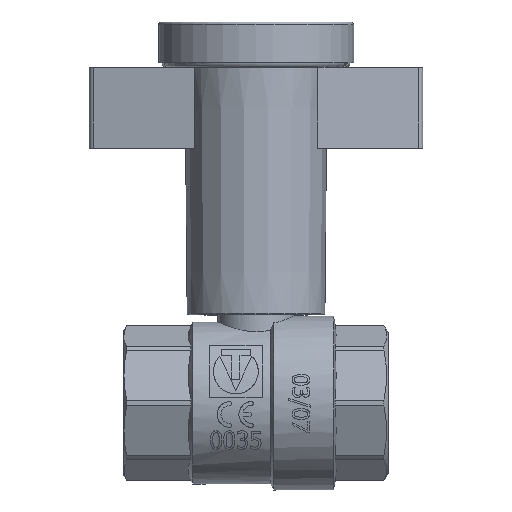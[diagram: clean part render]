
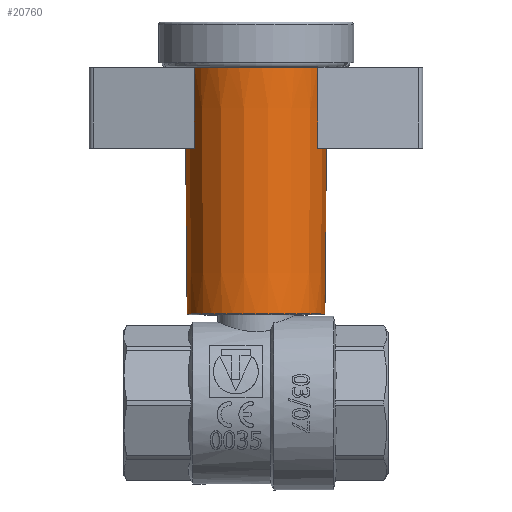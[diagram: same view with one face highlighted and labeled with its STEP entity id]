
A CAD part, top view. The second image highlights one B-rep face of the part: STEP entity #20760.
In plain terms, the highlighted conical face has half-angle 0.511 degrees and reference radius 14.7 mm.
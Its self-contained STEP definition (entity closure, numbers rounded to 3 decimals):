
#476=CONICAL_SURFACE('',#22009,14.7,0.009);
#1263=LINE('',#29179,#3019);
#3019=VECTOR('',#23516,14.7);
#5079=FACE_OUTER_BOUND('',#6241,.T.);
#6241=EDGE_LOOP('',(#13161,#13162,#13163,#13164,#13165,#13166,#13167,#13168,
#13169,#13170,#13171,#13172,#13173));
#7555=CIRCLE('',#22007,14.469);
#7556=CIRCLE('',#22008,14.469);
#7557=CIRCLE('',#22010,14.931);
#7558=CIRCLE('',#22011,14.931);
#7559=CIRCLE('',#22012,14.931);
#7560=CIRCLE('',#22013,14.931);
#7561=CIRCLE('',#22014,14.931);
#7562=CIRCLE('',#22015,14.931);
#7563=CIRCLE('',#22016,14.931);
#7564=CIRCLE('',#22017,14.931);
#7565=CIRCLE('',#22018,14.931);
#8010=VERTEX_POINT('',#29162);
#8011=VERTEX_POINT('',#29163);
#8012=VERTEX_POINT('',#29168);
#8013=VERTEX_POINT('',#29169);
#8014=VERTEX_POINT('',#29171);
#8015=VERTEX_POINT('',#29173);
#8016=VERTEX_POINT('',#29175);
#8017=VERTEX_POINT('',#29177);
#8018=VERTEX_POINT('',#29180);
#8019=VERTEX_POINT('',#29182);
#8020=VERTEX_POINT('',#29184);
#10054=EDGE_CURVE('',#8010,#8011,#7555,.T.);
#10055=EDGE_CURVE('',#8011,#8010,#7556,.T.);
#10057=EDGE_CURVE('',#8012,#8013,#7557,.T.);
#10058=EDGE_CURVE('',#8014,#8012,#7558,.T.);
#10059=EDGE_CURVE('',#8015,#8014,#7559,.T.);
#10060=EDGE_CURVE('',#8016,#8015,#7560,.T.);
#10061=EDGE_CURVE('',#8017,#8016,#7561,.T.);
#10062=EDGE_CURVE('',#8017,#8011,#1263,.T.);
#10063=EDGE_CURVE('',#8018,#8017,#7562,.T.);
#10064=EDGE_CURVE('',#8019,#8018,#7563,.T.);
#10065=EDGE_CURVE('',#8020,#8019,#7564,.T.);
#10066=EDGE_CURVE('',#8013,#8020,#7565,.T.);
#13161=ORIENTED_EDGE('',*,*,#10057,.F.);
#13162=ORIENTED_EDGE('',*,*,#10058,.F.);
#13163=ORIENTED_EDGE('',*,*,#10059,.F.);
#13164=ORIENTED_EDGE('',*,*,#10060,.F.);
#13165=ORIENTED_EDGE('',*,*,#10061,.F.);
#13166=ORIENTED_EDGE('',*,*,#10062,.T.);
#13167=ORIENTED_EDGE('',*,*,#10055,.T.);
#13168=ORIENTED_EDGE('',*,*,#10054,.T.);
#13169=ORIENTED_EDGE('',*,*,#10062,.F.);
#13170=ORIENTED_EDGE('',*,*,#10063,.F.);
#13171=ORIENTED_EDGE('',*,*,#10064,.F.);
#13172=ORIENTED_EDGE('',*,*,#10065,.F.);
#13173=ORIENTED_EDGE('',*,*,#10066,.F.);
#20760=ADVANCED_FACE('',(#5079),#476,.T.);
#22007=AXIS2_PLACEMENT_3D('',#29164,#23499,#23500);
#22008=AXIS2_PLACEMENT_3D('',#29165,#23501,#23502);
#22009=AXIS2_PLACEMENT_3D('',#29167,#23504,#23505);
#22010=AXIS2_PLACEMENT_3D('',#29170,#23506,#23507);
#22011=AXIS2_PLACEMENT_3D('',#29172,#23508,#23509);
#22012=AXIS2_PLACEMENT_3D('',#29174,#23510,#23511);
#22013=AXIS2_PLACEMENT_3D('',#29176,#23512,#23513);
#22014=AXIS2_PLACEMENT_3D('',#29178,#23514,#23515);
#22015=AXIS2_PLACEMENT_3D('',#29181,#23517,#23518);
#22016=AXIS2_PLACEMENT_3D('',#29183,#23519,#23520);
#22017=AXIS2_PLACEMENT_3D('',#29185,#23521,#23522);
#22018=AXIS2_PLACEMENT_3D('',#29186,#23523,#23524);
#23499=DIRECTION('center_axis',(0.,1.,0.));
#23500=DIRECTION('ref_axis',(1.,0.,0.));
#23501=DIRECTION('center_axis',(0.,1.,0.));
#23502=DIRECTION('ref_axis',(1.,0.,0.));
#23504=DIRECTION('center_axis',(0.,1.,0.));
#23505=DIRECTION('ref_axis',(-1.,0.,0.));
#23506=DIRECTION('center_axis',(0.,1.,0.));
#23507=DIRECTION('ref_axis',(1.,0.,0.));
#23508=DIRECTION('center_axis',(0.,1.,0.));
#23509=DIRECTION('ref_axis',(1.,0.,0.));
#23510=DIRECTION('center_axis',(0.,1.,0.));
#23511=DIRECTION('ref_axis',(1.,0.,0.));
#23512=DIRECTION('center_axis',(0.,1.,0.));
#23513=DIRECTION('ref_axis',(1.,0.,0.));
#23514=DIRECTION('center_axis',(0.,1.,0.));
#23515=DIRECTION('ref_axis',(1.,0.,0.));
#23516=DIRECTION('',(-0.009,-1.,0.));
#23517=DIRECTION('center_axis',(0.,1.,0.));
#23518=DIRECTION('ref_axis',(1.,0.,0.));
#23519=DIRECTION('center_axis',(0.,1.,0.));
#23520=DIRECTION('ref_axis',(1.,0.,0.));
#23521=DIRECTION('center_axis',(0.,1.,0.));
#23522=DIRECTION('ref_axis',(1.,0.,0.));
#23523=DIRECTION('center_axis',(0.,1.,0.));
#23524=DIRECTION('ref_axis',(1.,0.,0.));
#29162=CARTESIAN_POINT('',(-14.469,18.738,0.));
#29163=CARTESIAN_POINT('',(14.469,18.738,0.));
#29164=CARTESIAN_POINT('Origin',(0.,18.738,
0.));
#29165=CARTESIAN_POINT('Origin',(0.,18.738,
0.));
#29167=CARTESIAN_POINT('Origin',(0.,44.63,
0.));
#29168=CARTESIAN_POINT('',(-14.367,70.523,-4.063));
#29169=CARTESIAN_POINT('',(-14.349,70.523,4.126));
#29170=CARTESIAN_POINT('Origin',(0.,70.523,
0.));
#29171=CARTESIAN_POINT('',(-12.989,70.523,-7.362));
#29172=CARTESIAN_POINT('Origin',(0.,70.523,
0.));
#29173=CARTESIAN_POINT('',(12.986,70.523,-7.369));
#29174=CARTESIAN_POINT('Origin',(0.,70.523,
0.));
#29175=CARTESIAN_POINT('',(14.367,70.523,-4.064));
#29176=CARTESIAN_POINT('Origin',(0.,70.523,
0.));
#29177=CARTESIAN_POINT('',(14.931,70.523,0.));
#29178=CARTESIAN_POINT('Origin',(0.,70.523,
0.));
#29179=CARTESIAN_POINT('',(14.7,44.63,0.));
#29180=CARTESIAN_POINT('',(14.349,70.523,4.126));
#29181=CARTESIAN_POINT('Origin',(0.,70.523,
0.));
#29182=CARTESIAN_POINT('',(12.968,70.523,7.4));
#29183=CARTESIAN_POINT('Origin',(0.,70.523,
0.));
#29184=CARTESIAN_POINT('',(-12.971,70.523,7.394));
#29185=CARTESIAN_POINT('Origin',(0.,70.523,
0.));
#29186=CARTESIAN_POINT('Origin',(0.,70.523,
0.));
